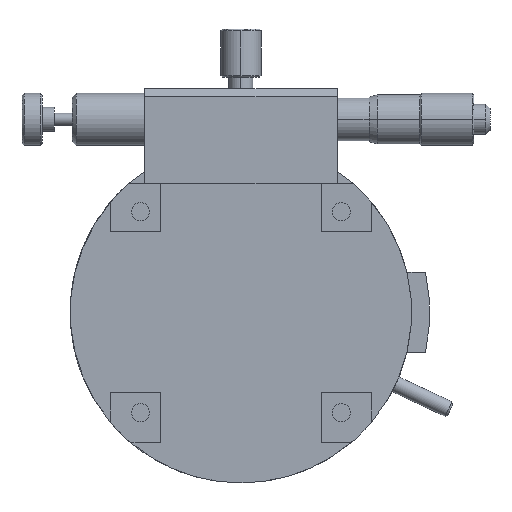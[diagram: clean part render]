
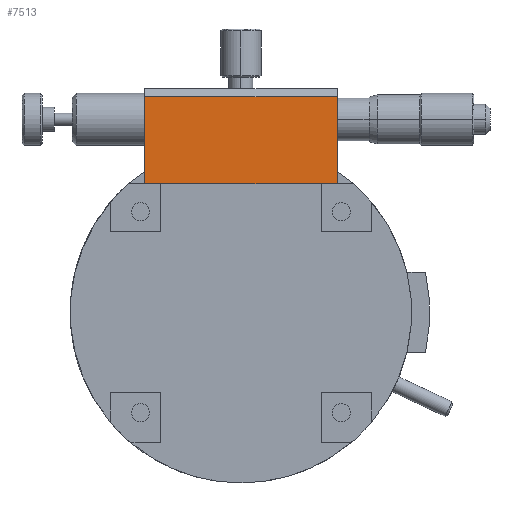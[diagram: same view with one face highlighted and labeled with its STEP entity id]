
A CAD part, front view. The second image highlights one B-rep face of the part: STEP entity #7513.
In plain terms, the highlighted planar face has unit normal (0, -1, 0).
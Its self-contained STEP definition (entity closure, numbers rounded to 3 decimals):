
#6229 = ORIENTED_EDGE ( 'NONE', *, *, #8859, .T. ) ;
#6949 = VERTEX_POINT ( 'NONE', #18554 ) ;
#6950 = VERTEX_POINT ( 'NONE', #18552 ) ;
#7162 = EDGE_CURVE ( 'NONE', #6949, #6950, #19260, .T. ) ;
#7326 = ORIENTED_EDGE ( 'NONE', *, *, #7162, .F. ) ;
#7513 = ADVANCED_FACE ( 'NONE', ( #20993 ), #20899, .T. ) ;
#8741 = EDGE_LOOP ( 'NONE', ( #7326, #6229, #8862, #8867 ) ) ;
#8859 = EDGE_CURVE ( 'NONE', #6949, #8861, #28853, .T. ) ;
#8861 = VERTEX_POINT ( 'NONE', #28957 ) ;
#8862 = ORIENTED_EDGE ( 'NONE', *, *, #8864, .T. ) ;
#8864 = EDGE_CURVE ( 'NONE', #8861, #8865, #28830, .T. ) ;
#8865 = VERTEX_POINT ( 'NONE', #28787 ) ;
#8867 = ORIENTED_EDGE ( 'NONE', *, *, #8869, .T. ) ;
#8869 = EDGE_CURVE ( 'NONE', #8865, #6950, #28834, .T. ) ;
#18552 = CARTESIAN_POINT ( 'NONE',  ( 24., 0., 32. ) ) ;
#18554 = CARTESIAN_POINT ( 'NONE',  ( 24., 0., 53.6 ) ) ;
#19260 = LINE ( 'NONE', #19286, #19285 ) ;
#19284 = DIRECTION ( 'NONE',  ( 0., 0., -1. ) ) ;
#19285 = VECTOR ( 'NONE', #19284, 1000. ) ;
#19286 = CARTESIAN_POINT ( 'NONE',  ( 24., 0., 55.6 ) ) ;
#20899 = PLANE ( 'NONE',  #20971 ) ;
#20969 = DIRECTION ( 'NONE',  ( 0., 0., -1. ) ) ;
#20970 = DIRECTION ( 'NONE',  ( 0., -1., 0. ) ) ;
#20971 = AXIS2_PLACEMENT_3D ( 'NONE', #21000, #20970, #20969 ) ;
#20993 = FACE_OUTER_BOUND ( 'NONE', #8741, .T. ) ;
#21000 = CARTESIAN_POINT ( 'NONE',  ( -24., 0., 55.6 ) ) ;
#28787 = CARTESIAN_POINT ( 'NONE',  ( -24., 0., 32. ) ) ;
#28788 = DIRECTION ( 'NONE',  ( 0., 0., -1. ) ) ;
#28789 = VECTOR ( 'NONE', #28788, 1000. ) ;
#28829 = CARTESIAN_POINT ( 'NONE',  ( -24., 0., 55.6 ) ) ;
#28830 = LINE ( 'NONE', #28829, #28789 ) ;
#28831 = DIRECTION ( 'NONE',  ( 1., 0., 0. ) ) ;
#28832 = VECTOR ( 'NONE', #28831, 1000. ) ;
#28833 = CARTESIAN_POINT ( 'NONE',  ( -24., 0., 32. ) ) ;
#28834 = LINE ( 'NONE', #28833, #28832 ) ;
#28851 = VECTOR ( 'NONE', #28958, 1000. ) ;
#28852 = CARTESIAN_POINT ( 'NONE',  ( -24., 0., 53.6 ) ) ;
#28853 = LINE ( 'NONE', #28852, #28851 ) ;
#28957 = CARTESIAN_POINT ( 'NONE',  ( -24., 0., 53.6 ) ) ;
#28958 = DIRECTION ( 'NONE',  ( -1., 0., 0. ) ) ;
